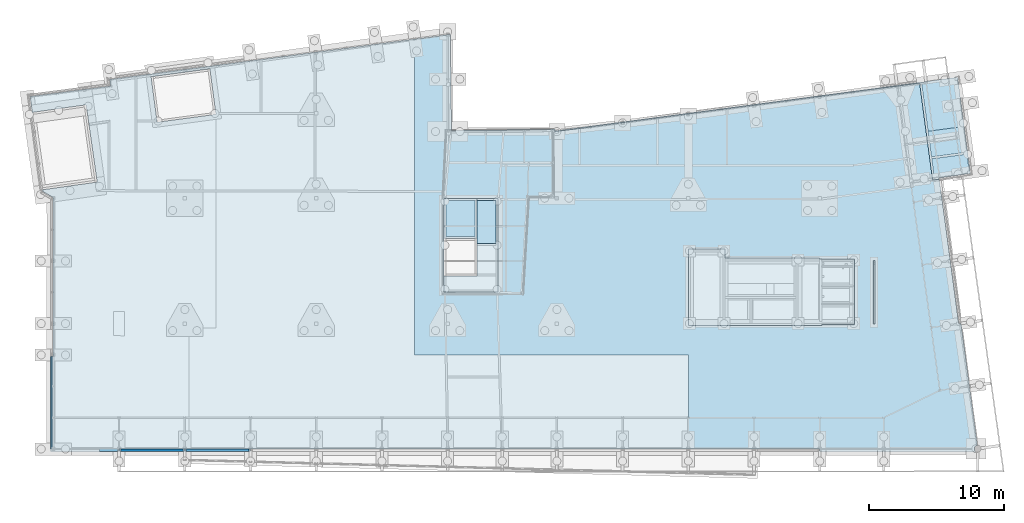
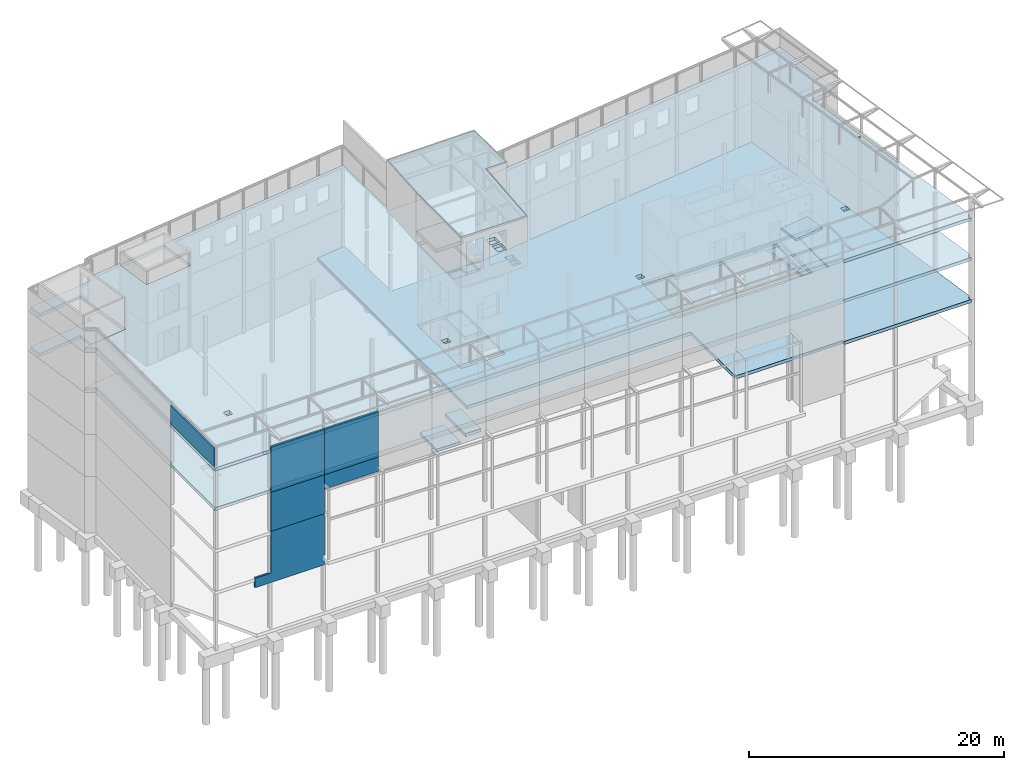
# One storey, part 68 of 82: 13 slabs, 6 walls.
"""IFC2X3 building model written with IfcOpenShell, lengths in millimetres."""

from ifc_helpers import new_model, si_unit, frame, frame_2d, origin_with_axes, place, context, subcontext, project, spatial, polyline, rectangle, circle, outline, extrude, boolean, material, layer, layer_set, layer_usage, type_object, element, save


model = new_model("IFC2X3")

# Units and contexts
model_context = context("Model", 3, precision=1e-05, world=origin_with_axes())
body_context = subcontext(model_context, "Body", "Model", "MODEL_VIEW")
ifc_project = project(units=[si_unit("LENGTHUNIT", "METRE", prefix="MILLI"), si_unit("AREAUNIT", "SQUARE_METRE"), si_unit("VOLUMEUNIT", "CUBIC_METRE"), si_unit("MASSUNIT", "GRAM", prefix="KILO"), si_unit("TIMEUNIT", "SECOND"), si_unit("PLANEANGLEUNIT", "RADIAN"), si_unit("SOLIDANGLEUNIT", "STERADIAN"), si_unit("THERMODYNAMICTEMPERATUREUNIT", "DEGREE_CELSIUS"), si_unit("LUMINOUSINTENSITYUNIT", "LUMEN")], contexts=[model_context])

# Site, building, storey
site_placement = place(None, origin_with_axes())
site = spatial("IfcSite", under=ifc_project, at=site_placement, Name="Undefined", CompositionType="ELEMENT")
building_placement = place(site_placement, origin_with_axes())
building = spatial("IfcBuilding", under=site, at=building_placement, Name="Undefined", CompositionType="ELEMENT")
storey_placement = place(building_placement, origin_with_axes())
storey = spatial("IfcBuildingStorey", under=building, at=storey_placement, Name="Undefined", CompositionType="ELEMENT", Elevation=0.0)

# Slabs
ifc_material_1 = material(Name="CONCRETE/C25/30")
ifc_layer_1 = layer(ifc_material_1, 150.0)
ifc_layer_set_1 = layer_set([ifc_layer_1], Name="Floor: Insitu CONCRETE/C25/30")
ifc_layer_usage_1 = layer_usage(ifc_layer_set_1, "AXIS3", "POSITIVE", -75.0)
slab_type_1 = type_object("IfcSlabType", Name="150*8179", PredefinedType="NOTDEFINED")
slab_1_placement = place(storey_placement, frame((37077.4776355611, 23668.8631790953, 21920.0), z_axis=(0.0, 0.0, 1.0), x_axis=(-0.999934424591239, -0.0114519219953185, 0.0)))
element("IfcSlab", 1, at=slab_1_placement, inside=storey, type_object=slab_type_1, material=ifc_layer_usage_1, Name="DALLE", ObjectType="150*8179", PredefinedType="FLOOR", context=body_context, shape_type="SweptSolid", body=[
    extrude(outline(polyline([(5.17284206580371e-08, 4.49290382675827e-10), (7910.34472641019, 7.93843355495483e-08), (8211.64355453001, 5011.44873057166), (8292.06542952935, 12032.2294923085), (2392.53124995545, 12156.0429688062), (1884.08496090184, 4971.11962893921), (32.0093955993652, 4992.16162110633), (5.17284206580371e-08, 4.49290382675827e-10)])), frame((0.0, 0.0, -75.0), z_axis=(0.0, 0.0, 1.0), x_axis=(1.0, 0.0, 0.0)), (0.0, 0.0, 1.0), 150.0),
])
ifc_material_2 = material(Name="CONCRETE/C30/37")
ifc_layer_2 = layer(ifc_material_2, 300.0)
ifc_layer_set_2 = layer_set([ifc_layer_2], Name="Floor: Insitu CONCRETE/C30/37")
ifc_layer_usage_2 = layer_usage(ifc_layer_set_2, "AXIS3", "POSITIVE", -150.0)
slab_type_2 = type_object("IfcSlabType", Name="300*2445", PredefinedType="NOTDEFINED")
slab_2_placement = place(storey_placement, frame((31418.7636301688, 15615.068582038, 18180.0), z_axis=(0.0, -6.50000002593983e-08, -0.999999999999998), x_axis=(-1.0, 0.0, 0.0)))
element("IfcSlab", 2, at=slab_2_placement, inside=storey, type_object=slab_type_2, material=ifc_layer_usage_2, Name="DALLE", ObjectType="300*2445", PredefinedType="FLOOR", context=body_context, shape_type="SweptSolid", body=[
    extrude(outline(polyline([(5.17284206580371e-08, 4.49290382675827e-10), (2444.99707031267, 1.21690391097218e-09), (2445.00048828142, 2949.99951171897), (0.00046916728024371, 2950.00024414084), (5.17284206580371e-08, 4.49290382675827e-10)])), frame((-3.63806012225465e-12, 9.115763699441e-13, -150.0), z_axis=(0.0, 0.0, 1.0), x_axis=(1.0, 0.0, 0.0)), (0.0, 0.0, 1.0), 300.0),
])
ifc_layer_usage_3 = layer_usage(ifc_layer_set_2, "AXIS3", "POSITIVE", -150.0)
slab_type_3 = type_object("IfcSlabType", Name="300*1430", PredefinedType="NOTDEFINED")
slab_3_placement = place(storey_placement, frame((31418.7636305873, 18415.0686918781, 13179.9999999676), z_axis=(0.0, 0.0, 1.0), x_axis=(-2.77555756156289e-17, -1.0, 0.0)))
element("IfcSlab", 3, at=slab_3_placement, inside=storey, type_object=slab_type_3, material=ifc_layer_usage_3, Name="DALLE", ObjectType="300*1430", PredefinedType="FLOOR", context=body_context, shape_type="SweptSolid", body=[
    extrude(outline(polyline([(5.17284206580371e-08, 4.49290382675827e-10), (3164.09887695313, -2.86308932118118e-09), (3164.09887695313, 1429.97204589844), (0.0, 1429.97204589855), (5.17284206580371e-08, 4.49290382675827e-10)])), frame((-3.63806012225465e-12, 9.115763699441e-13, -150.0), z_axis=(0.0, 0.0, 1.0), x_axis=(1.0, 0.0, 0.0)), (0.0, 0.0, 1.0), 300.0),
])
ifc_layer_usage_4 = layer_usage(ifc_layer_set_2, "AXIS3", "POSITIVE", -150.0)
slab_4_placement = place(storey_placement, frame((31418.7636305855, 18415.068691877, 9154.99999996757), z_axis=(0.0, 0.0, 1.0), x_axis=(-2.77555756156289e-17, -1.0, 0.0)))
element("IfcSlab", 4, at=slab_4_placement, inside=storey, type_object=slab_type_3, material=ifc_layer_usage_4, Name="DALLE", ObjectType="300*1430", PredefinedType="FLOOR", context=body_context, shape_type="SweptSolid", body=[
    extrude(outline(polyline([(5.17284206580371e-08, 4.49290382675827e-10), (3164.09887695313, -2.86308932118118e-09), (3164.09887695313, 1429.97204589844), (0.0, 1429.97204589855), (5.17284206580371e-08, 4.49290382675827e-10)])), frame((-3.63806012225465e-12, 9.115763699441e-13, -150.0), z_axis=(0.0, 0.0, 1.0), x_axis=(1.0, 0.0, 0.0)), (0.0, 0.0, 1.0), 300.0),
])
ifc_layer_usage_5 = layer_usage(ifc_layer_set_2, "AXIS3", "POSITIVE", -150.0)
slab_5_placement = place(storey_placement, frame((31418.7636305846, 18415.0686918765, 5149.99999996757), z_axis=(0.0, 0.0, 1.0), x_axis=(-2.77555756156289e-17, -1.0, 0.0)))
element("IfcSlab", 5, at=slab_5_placement, inside=storey, type_object=slab_type_3, material=ifc_layer_usage_5, Name="DALLE", ObjectType="300*1430", PredefinedType="FLOOR", context=body_context, shape_type="SweptSolid", body=[
    extrude(outline(polyline([(5.17284206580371e-08, 4.49290382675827e-10), (3164.09887695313, -2.86308932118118e-09), (3164.09887695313, 1429.97204589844), (0.0, 1429.97204589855), (5.17284206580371e-08, 4.49290382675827e-10)])), frame((-3.63806012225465e-12, 9.115763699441e-13, -150.0), z_axis=(0.0, 0.0, 1.0), x_axis=(1.0, 0.0, 0.0)), (0.0, 0.0, 1.0), 300.0),
])
ifc_layer_usage_6 = layer_usage(ifc_layer_set_2, "AXIS3", "POSITIVE", -150.0)
slab_6_placement = place(storey_placement, frame((31418.7636301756, 15250.9697769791, -150.0), z_axis=(0.0, 0.0, 1.0), x_axis=(1.0, 0.0, 0.0)))
element("IfcSlab", 6, at=slab_6_placement, inside=storey, type_object=slab_type_3, material=ifc_layer_usage_6, Name="DALLE", ObjectType="300*1430", PredefinedType="FLOOR", context=body_context, shape_type="SweptSolid", body=[
    extrude(outline(polyline([(5.17284206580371e-08, 4.49290382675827e-10), (1429.97204589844, 0.0), (1429.97204589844, 3164.09887695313), (0.0, 3164.09887695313), (5.17284206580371e-08, 4.49290382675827e-10)])), frame((-3.63806012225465e-12, 9.115763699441e-13, -150.0), z_axis=(0.0, 0.0, 1.0), x_axis=(1.0, 0.0, 0.0)), (0.0, 0.0, 1.0), 300.0),
])
ifc_layer_usage_7 = layer_usage(ifc_layer_set_2, "AXIS3", "POSITIVE", -150.0)
slab_type_4 = type_object("IfcSlabType", Name="300*30937", PredefinedType="NOTDEFINED")
slab_7_placement = place(storey_placement, frame((4874.99928096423, -14.9992674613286, 17009.9999999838), z_axis=(0.0, 0.0, 1.0), x_axis=(1.0, 0.0, 0.0)))
solid = boolean("DIFFERENCE", boolean("DIFFERENCE", boolean("DIFFERENCE", boolean("DIFFERENCE", boolean("DIFFERENCE", boolean("DIFFERENCE", boolean("DIFFERENCE", boolean("DIFFERENCE", extrude(outline(polyline([(5.17284206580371e-08, 4.49290382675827e-10), (51975.0000000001, 2.93640169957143e-08), (51975.0039062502, -179.998809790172), (63727.2304687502, -179.999542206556), (62456.9374999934, 9340.37207034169), (62278.5156249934, 9316.56835940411), (60993.8945312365, 18944.3574219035), (60842.4335937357, 20005.4355469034), (60825.9335937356, 20119.2441406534), (63150.6523437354, 20456.2656250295), (62205.8593749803, 27590.5859375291), (32335.1093749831, 23621.2128906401), (32252.8496093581, 23610.2832031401), (32252.476562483, 23684.4355468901), (24659.3808593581, 23597.4746093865), (24660.8984374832, 23468.7910156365), (24480.9101562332, 23466.7304687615), (24394.999999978, 30756.6328125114), (-704.555175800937, 27433.1992187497), (-638.429504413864, 26937.6367187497), (-6603.74560548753, 26165.7246093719), (-6445.37304689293, 24978.781249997), (-2441.05517579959, 25548.7363281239), (-1624.68457032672, 19813.7167968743), (-5680.11621095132, 19243.4960937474), (-5663.48388673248, 19118.8203124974), (-4890.0019531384, 18658.8222656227), (-4890.00000000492, 6857.79882812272), (-5070.00048828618, 6857.79541015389), (-5070.00488281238, -180.002334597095), (0.000722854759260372, -180.000732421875), (5.17284206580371e-08, 4.49290382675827e-10)])), frame((-3.63806012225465e-12, 9.115763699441e-13, -150.0), z_axis=(0.0, 0.0, 1.0), x_axis=(1.0, 0.0, 0.0)), (0.0, 0.0, 1.0), 300.0), extrude(circle(Radius=75.0, at=frame_2d((5.17284206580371e-08, 4.49290382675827e-10), x_axis=(1.0, 0.0))), frame((61456.0977750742, 13776.0003424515, 160.000000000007), z_axis=(0.0, -6.50000002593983e-08, -0.999999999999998), x_axis=(-1.0, 0.0, 0.0)), (0.0, 0.0, 1.0), 320.0)), extrude(rectangle(XDim=550.0, YDim=550.0, at=frame_2d((5.17284206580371e-08, 4.49290382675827e-10), x_axis=(1.0, 0.0))), frame((55545.0041602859, 5808.50813840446, 160.000000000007), z_axis=(0.0, -6.50000002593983e-08, -0.999999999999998), x_axis=(-1.0, 0.0, 0.0)), (0.0, 0.0, 1.0), 320.0)), extrude(rectangle(XDim=550.0, YDim=550.0, at=frame_2d((5.17284206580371e-08, 4.49290382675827e-10), x_axis=(1.0, 0.0))), frame((36953.6497901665, 5808.50782246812, 160.000000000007), z_axis=(0.0, -6.50000002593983e-08, -0.999999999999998), x_axis=(-1.0, 0.0, 0.0)), (0.0, 0.0, 1.0), 320.0)), extrude(rectangle(XDim=550.0, YDim=550.0, at=frame_2d((5.17284206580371e-08, 4.49290382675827e-10), x_axis=(1.0, 0.0))), frame((19338.2933448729, 5808.50752311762, 160.000000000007), z_axis=(0.0, -6.50000002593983e-08, -0.999999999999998), x_axis=(-1.0, 0.0, 0.0)), (0.0, 0.0, 1.0), 320.0)), extrude(rectangle(XDim=550.0, YDim=550.0, at=frame_2d((5.17284206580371e-08, 4.49290382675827e-10), x_axis=(1.0, 0.0))), frame((-432.283132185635, 5808.50718714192, 160.000000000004), z_axis=(0.0, -6.50000002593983e-08, -0.999999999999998), x_axis=(-1.0, 0.0, 0.0)), (0.0, 0.0, 1.0), 320.0)), extrude(rectangle(XDim=700.0, YDim=600.0, at=frame_2d((5.17284206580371e-08, 4.49290382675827e-10), x_axis=(1.0, 0.0))), frame((29411.205436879, 13109.0200081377, 160.000000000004), z_axis=(0.0, -6.50000002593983e-08, -0.999999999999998), x_axis=(-1.0, 0.0, 0.0)), (0.0, 0.0, 1.0), 320.0)), extrude(rectangle(XDim=700.0, YDim=600.0, at=frame_2d((5.17284206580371e-08, 4.49290382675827e-10), x_axis=(1.0, 0.0))), frame((29411.205449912, 12342.726959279, 160.000000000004), z_axis=(0.0, -6.50000002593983e-08, -0.999999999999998), x_axis=(-1.0, 0.0, 0.0)), (0.0, 0.0, 1.0), 320.0)), extrude(rectangle(XDim=800.0, YDim=900.0, at=frame_2d((5.17284206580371e-08, 4.49290382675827e-10), x_axis=(1.0, 0.0))), frame((29373.7059808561, 14768.6965717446, 160.000000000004), z_axis=(0.0, -6.50000002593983e-08, -0.999999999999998), x_axis=(-1.0, 0.0, 0.0)), (0.0, 0.0, 1.0), 320.0))
element("IfcSlab", 7, at=slab_7_placement, inside=storey, type_object=slab_type_4, material=ifc_layer_usage_7, Name="DALLE", ObjectType="300*30937", PredefinedType="FLOOR", context=body_context, shape_type="CSG", body=[
    boolean("DIFFERENCE", boolean("DIFFERENCE", boolean("DIFFERENCE", boolean("DIFFERENCE", boolean("DIFFERENCE", boolean("DIFFERENCE", boolean("DIFFERENCE", solid, extrude(rectangle(XDim=800.0, YDim=800.0, at=frame_2d((5.17284206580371e-08, 4.49290382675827e-10), x_axis=(1.0, 0.0))), frame((29373.7059627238, 15834.8119386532, 160.000000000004), z_axis=(0.0, -6.50000002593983e-08, -0.999999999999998), x_axis=(-1.0, 0.0, 0.0)), (0.0, 0.0, 1.0), 320.0)), extrude(rectangle(XDim=600.0, YDim=600.0, at=frame_2d((5.17284206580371e-08, 4.49290382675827e-10), x_axis=(1.0, 0.0))), frame((29410.6617311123, 19657.2196617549, 160.000000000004), z_axis=(0.0, -6.50000002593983e-08, -0.999999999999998), x_axis=(-1.0, 0.0, 0.0)), (0.0, 0.0, 1.0), 320.0)), extrude(rectangle(XDim=800.0, YDim=700.0, at=frame_2d((5.17284206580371e-08, 4.49290382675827e-10), x_axis=(1.0, 0.0))), frame((29392.1824778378, 20610.4405057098, 160.000000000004), z_axis=(0.0, -6.50000002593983e-08, -0.999999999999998), x_axis=(-1.0, 0.0, 0.0)), (0.0, 0.0, 1.0), 320.0)), extrude(rectangle(XDim=800.0, YDim=1900.0, at=frame_2d((5.17284206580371e-08, 4.49290382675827e-10), x_axis=(1.0, 0.0))), frame((29392.1832937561, 22232.3215138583, 160.000000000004), z_axis=(0.0, -6.50000002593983e-08, -0.999999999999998), x_axis=(-1.0, 0.0, 0.0)), (0.0, 0.0, 1.0), 320.0)), extrude(circle(Radius=250.0, at=frame_2d((5.17284206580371e-08, 4.49290382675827e-10), x_axis=(1.0, 0.0))), frame((63687.2445279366, 37.40109331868, 1875.00000001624), z_axis=(0.0, -6.50000002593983e-08, -0.999999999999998), x_axis=(-1.0, 0.0, 0.0)), (0.0, 0.0, 1.0), 10000.0)), extrude(outline(polyline([(5.17284206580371e-08, 4.49290382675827e-10), (5750.0, 1.00153556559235e-08), (5750.0, 2445.0), (-1.36053131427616e-06, 2444.99975585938), (5.17284206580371e-08, 4.49290382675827e-10)])), frame((24098.764064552, 18580.0683689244, -252.500000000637), z_axis=(0.0, 0.0, 1.0), x_axis=(-2.77555756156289e-17, -1.0, 0.0)), (0.0, 0.0, 1.0), 405.0)), extrude(outline(polyline([(5.17284206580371e-08, 4.49290382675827e-10), (4400.00000000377, -1.34241417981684e-09), (4399.99902344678, 3399.99951169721), (-0.00100261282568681, 3399.9995116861), (5.17284206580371e-08, 4.49290382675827e-10)])), frame((2376.19285638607, 27626.7100125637, 152.499999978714), z_axis=(0.0, -6.50000002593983e-08, -0.999999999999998), x_axis=(0.991215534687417, 0.132256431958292, 0.0)), (0.0, 0.0, 1.0), 405.0)),
])
ifc_layer_usage_8 = layer_usage(ifc_layer_set_2, "AXIS3", "POSITIVE", -150.0)
slab_type_5 = type_object("IfcSlabType", Name="300*30960", PredefinedType="NOTDEFINED")
slab_8_placement = place(storey_placement, frame((29449.7337977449, 30765.4316610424, 13179.9999999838), z_axis=(0.0, 0.0, 1.0), x_axis=(-0.991347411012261, -0.131264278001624, 0.0)))
element("IfcSlab", 8, at=slab_8_placement, inside=storey, type_object=slab_type_5, material=ifc_layer_usage_8, Name="DALLE", ObjectType="300*30960", PredefinedType="FLOOR", context=body_context, shape_type="CSG", body=[
    boolean("DIFFERENCE", boolean("DIFFERENCE", boolean("DIFFERENCE", boolean("DIFFERENCE", boolean("DIFFERENCE", extrude(outline(polyline([(5.17284206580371e-08, 4.49290382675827e-10), (25499.9296873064, 8.1199686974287e-09), (25499.4257810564, 499.95474242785), (31514.4511716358, 482.155090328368), (31513.2519528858, 1679.61682127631), (27468.7675779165, 1640.21972655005), (27412.2636716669, 7432.77490228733), (31507.4550778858, 7465.72949213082), (31507.3320310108, 7591.50830072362), (30800.9238278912, 8149.05664056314), (32349.9746091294, 19847.9726560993), (32528.4179685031, 19824.3476560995), (33452.234374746, 26801.2499997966), (28426.0976560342, 27466.7597654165), (28402.4707029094, 27288.3164060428), (-23122.8105466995, 34110.7773434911), (-23099.1835935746, 34289.2187497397), (-34749.7226559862, 35831.867187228), (-34740.1054684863, 26227.1269529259), (-34560.1015622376, 26227.3046873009), (-34550.3828122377, 16514.1953123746), (-34540.3632809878, 16514.2050779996), (-34539.2695309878, 15422.3955076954), (-34040.0039059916, 15426.9912108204), (-34031.7499997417, 8168.20068353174), (-6753.50927729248, 8180.9316405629), (-6753.42529291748, 8000.93212884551), (-6753.58203119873, 7999.63281243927), (852.815856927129, 7080.97656244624), (5.17284206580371e-08, 4.49290382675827e-10)])), frame((-3.63806012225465e-12, 9.115763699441e-13, -150.0), z_axis=(0.0, 0.0, 1.0), x_axis=(1.0, 0.0, 0.0)), (0.0, 0.0, 1.0), 300.0), extrude(circle(Radius=250.0, at=frame_2d((5.17284206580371e-08, 4.49290382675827e-10), x_axis=(1.0, 0.0))), frame((-34738.6237813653, 35611.0994946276, 5825.00000001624), z_axis=(0.0, -6.50000002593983e-08, -0.999999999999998), x_axis=(0.991347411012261, -0.131264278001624, 0.0)), (0.0, 0.0, 1.0), 10000.0)), extrude(outline(polyline([(5.17284206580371e-08, 4.49290382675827e-10), (4700.00000000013, 0.0), (4700.0, 100.0), (0.0, 100.0), (5.17284206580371e-08, 4.49290382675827e-10)])), frame((-28909.0089847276, 20764.8217370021, -252.499999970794), z_axis=(0.0, 0.0, 1.0), x_axis=(0.131264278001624, 0.991347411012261, 0.0)), (0.0, 0.0, 1.0), 405.0)), extrude(outline(polyline([(5.17284206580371e-08, 4.49290382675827e-10), (5700.00048828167, 1.21508492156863e-09), (5699.99902343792, 9900.00000000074), (5624.99902343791, 9900.00000000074), (5624.99902343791, 12325.0019531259), (749.998046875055, 12325.0009765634), (749.998474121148, 9749.99902343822), (674.999633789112, 9749.99902343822), (675.000732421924, 2724.99853515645), (-0.000428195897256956, 2724.99853515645), (5.17284206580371e-08, 4.49290382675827e-10)])), frame((-15408.4190406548, 18094.5708172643, -252.499999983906), z_axis=(0.0, 0.0, 1.0), x_axis=(0.131264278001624, 0.991347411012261, 0.0)), (0.0, 0.0, 1.0), 405.0)), extrude(outline(polyline([(5.17284206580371e-08, 4.49290382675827e-10), (6920.14599609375, -8.64383764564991e-09), (6920.14599609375, 4024.97192382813), (-2.88779119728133e-06, 4024.97192382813), (5.17284206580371e-08, 4.49290382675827e-10)])), frame((2073.32359890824, 12032.3203666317, -252.499999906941), z_axis=(0.0, 0.0, 1.0), x_axis=(0.131264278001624, 0.991347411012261, 0.0)), (0.0, 0.0, 1.0), 405.0)), extrude(outline(polyline([(5.17284206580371e-08, 4.49290382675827e-10), (4400.00000000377, -1.34241417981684e-09), (4399.99902344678, 3399.99951169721), (-0.00100261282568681, 3399.9995116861), (5.17284206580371e-08, 4.49290382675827e-10)])), frame((22420.4372420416, 212.557623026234, 152.499999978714), z_axis=(0.0, -6.50000002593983e-08, -0.999999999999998), x_axis=(-0.999999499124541, -0.00100087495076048, 0.0)), (0.0, 0.0, 1.0), 405.0)),
])
ifc_layer_usage_9 = layer_usage(ifc_layer_set_2, "AXIS3", "POSITIVE", -150.0)
slab_type_6 = type_object("IfcSlabType", Name="300*35828", PredefinedType="NOTDEFINED")
slab_9_placement = place(storey_placement, frame((29449.7337974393, 30765.4316611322, 9155.0), z_axis=(0.0, 0.0, 1.0), x_axis=(-0.99134656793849, -0.131270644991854, 0.0)))
element("IfcSlab", 9, at=slab_9_placement, inside=storey, type_object=slab_type_6, material=ifc_layer_usage_9, Name="DALLE", ObjectType="300*35828", PredefinedType="FLOOR", context=body_context, shape_type="CSG", body=[
    boolean("DIFFERENCE", boolean("DIFFERENCE", boolean("DIFFERENCE", boolean("DIFFERENCE", extrude(outline(polyline([(5.17284206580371e-08, 4.49290382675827e-10), (2687.99414062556, -3.10319592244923e-09), (5765.31591796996, 23239.7187500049), (-14373.888671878, 25906.4824218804), (-13475.9970703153, 32687.2910156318), (-13604.8730468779, 32704.3574218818), (-13585.8378906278, 32848.1054687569), (-23122.5917968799, 34110.9257812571), (-23098.9628906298, 34289.3671875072), (-34749.4921875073, 35832.0937500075), (-34739.9375000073, 26227.3496093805), (-34559.9375000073, 26227.5273437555), (-34550.2773437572, 16514.4160156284), (-34540.2578125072, 16514.4257812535), (-34539.1718750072, 15422.6171875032), (-34039.9062500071, 15427.2099609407), (-34031.6992187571, 8168.4189453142), (-6753.45703125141, 8180.97509765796), (-6753.37402343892, 8000.97558593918), (-6753.53076172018, 7999.67626953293), (852.861328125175, 7080.97119140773), (5.17284206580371e-08, 4.49290382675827e-10)])), frame((-3.63806012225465e-12, 9.115763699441e-13, -150.0), z_axis=(0.0, 0.0, 1.0), x_axis=(1.0, 0.0, 0.0)), (0.0, 0.0, 1.0), 300.0), extrude(circle(Radius=250.0, at=frame_2d((5.17284206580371e-08, 4.49290382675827e-10), x_axis=(1.0, 0.0))), frame((-34738.3950663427, 35611.3226050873, 150.0), z_axis=(0.0, -6.50000002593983e-08, -0.999999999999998), x_axis=(0.99134656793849, -0.131270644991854, 0.0)), (0.0, 0.0, 1.0), 9755.0)), extrude(outline(polyline([(5.17284206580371e-08, 4.49290382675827e-10), (4700.00000000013, 0.0), (4700.0, 100.0), (0.0, 100.0), (5.17284206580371e-08, 4.49290382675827e-10)])), frame((-28908.8756210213, 20765.0074067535, -252.5), z_axis=(0.0, 0.0, 1.0), x_axis=(0.131270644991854, 0.99134656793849, 0.0)), (0.0, 0.0, 1.0), 405.0)), extrude(outline(polyline([(5.17284206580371e-08, 4.49290382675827e-10), (5625.00048828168, -2.42507667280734e-08), (5624.99902343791, 9900.00000000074), (5549.99902341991, 9899.99999998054), (5549.9990234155, 12325.0019531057), (749.998046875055, 12325.0009765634), (749.997985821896, 9899.99902343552), (674.999145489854, 9899.9990234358), (675.000732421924, 2724.99853515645), (-0.000428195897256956, 2724.99853515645), (5.17284206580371e-08, 4.49290382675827e-10)])), frame((-15398.4575287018, 18169.0207712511, -252.5), z_axis=(0.0, 0.0, 1.0), x_axis=(0.131270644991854, 0.99134656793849, 0.0)), (0.0, 0.0, 1.0), 405.0)), extrude(outline(polyline([(5.17284206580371e-08, 4.49290382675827e-10), (6920.14599609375, -8.64383764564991e-09), (6920.14599609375, 4024.97192382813), (-2.88779119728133e-06, 4024.97192382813), (5.17284206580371e-08, 4.49290382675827e-10)])), frame((2073.40087692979, 12032.3070504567, -252.5), z_axis=(0.0, 0.0, 1.0), x_axis=(0.131270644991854, 0.99134656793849, 0.0)), (0.0, 0.0, 1.0), 405.0)),
])
ifc_layer_usage_10 = layer_usage(ifc_layer_set_2, "AXIS3", "POSITIVE", -150.0)
slab_type_7 = type_object("IfcSlabType", Name="300*2640", PredefinedType="NOTDEFINED")
slab_10_placement = place(storey_placement, frame((67751.0876123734, 22019.4405611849, -150.0), z_axis=(0.0, -6.50000002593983e-08, -0.999999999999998), x_axis=(-0.991344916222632, -0.131283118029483, 0.0)))
element("IfcSlab", 10, at=slab_10_placement, inside=storey, type_object=slab_type_7, material=ifc_layer_usage_10, Name="DALLE", ObjectType="300*2640", PredefinedType="FLOOR", context=body_context, shape_type="SweptSolid", body=[
    extrude(outline(polyline([(5.17284206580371e-08, 4.49290382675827e-10), (2633.87377926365, -5.78802428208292e-09), (2640.05737300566, 5529.83447270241), (144.94946288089, 5530.95214848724), (144.884521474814, 5385.95166020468), (0.00095330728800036, 5386.01660161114), (5.17284206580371e-08, 4.49290382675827e-10)])), frame((-3.63806012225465e-12, 9.115763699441e-13, -150.0), z_axis=(0.0, 0.0, 1.0), x_axis=(1.0, 0.0, 0.0)), (0.0, 0.0, 1.0), 300.0),
])
ifc_layer_3 = layer(ifc_material_2, 230.0)
ifc_layer_set_3 = layer_set([ifc_layer_3], Name="Floor: Insitu CONCRETE/C30/37")
ifc_layer_usage_11 = layer_usage(ifc_layer_set_3, "AXIS3", "POSITIVE", -115.0)
slab_type_8 = type_object("IfcSlabType", Name="230*1916", PredefinedType="NOTDEFINED")
slab_11_placement = place(storey_placement, frame((65140.0101789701, 21673.6578674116, 2866.44), z_axis=(0.0, 0.0, 1.0), x_axis=(0.991344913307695, 0.131283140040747, 0.0)))
element("IfcSlab", 11, at=slab_11_placement, inside=storey, type_object=slab_type_8, material=ifc_layer_usage_11, Name="PALIER", ObjectType="230*1916", PredefinedType="FLOOR", context=body_context, shape_type="SweptSolid", body=[
    extrude(outline(polyline([(5.17284206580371e-08, 4.49290382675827e-10), (2618.87402345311, -3.31383489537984e-08), (2618.87402345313, 1915.95043943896), (-2.13949632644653, 1913.02038575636), (5.17284206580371e-08, 4.49290382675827e-10)])), frame((0.0, 0.0, -115.0), z_axis=(0.0, 0.0, 1.0), x_axis=(1.0, 0.0, 0.0)), (0.0, 0.0, 1.0), 230.0),
])
ifc_layer_usage_12 = layer_usage(ifc_layer_set_2, "AXIS3", "POSITIVE", -150.0)
slab_type_9 = type_object("IfcSlabType", Name="300*1578", PredefinedType="NOTDEFINED")
slab_12_placement = place(storey_placement, frame((67809.2746446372, 20475.5754798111, -150.0), z_axis=(0.0, -6.50000002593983e-08, -0.999999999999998), x_axis=(-0.989654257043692, -0.143472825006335, 0.0)))
element("IfcSlab", 12, at=slab_12_placement, inside=storey, type_object=slab_type_9, material=ifc_layer_usage_12, Name="DALLE", ObjectType="300*1578", PredefinedType="FLOOR", context=body_context, shape_type="SweptSolid", body=[
    extrude(outline(polyline([(5.17284206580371e-08, 4.49290382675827e-10), (2139.80371102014, -1.57069734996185e-08), (2139.80371101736, -159.975585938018), (2489.08447274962, -158.884918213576), (2471.43530285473, 1418.6632080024), (-162.071502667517, 1386.25231933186), (-146.812042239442, 146.395889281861), (-1.82364558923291, 148.180267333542), (5.17284206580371e-08, 4.49290382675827e-10)])), frame((-3.63806012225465e-12, 9.115763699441e-13, -150.0), z_axis=(0.0, 0.0, 1.0), x_axis=(1.0, 0.0, 0.0)), (0.0, 0.0, 1.0), 300.0),
])
ifc_layer_usage_13 = layer_usage(ifc_layer_set_2, "AXIS3", "POSITIVE", -150.0)
slab_type_10 = type_object("IfcSlabType", Name="300*2145", PredefinedType="NOTDEFINED")
slab_13_placement = place(storey_placement, frame((31268.7636301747, 15765.0686917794, -1149.99980926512), z_axis=(0.0, 0.0, 1.0), x_axis=(0.0, 1.0, 0.0)))
element("IfcSlab", 13, at=slab_13_placement, inside=storey, type_object=slab_type_10, material=ifc_layer_usage_13, Name="DALLE", ObjectType="300*2145", PredefinedType="FLOOR", context=body_context, shape_type="SweptSolid", body=[
    extrude(outline(polyline([(5.17284206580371e-08, 4.49290382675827e-10), (2649.99975585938, 1.72440195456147e-09), (2650.0, 2145.0), (-1.68991864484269e-05, 2145.0), (5.17284206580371e-08, 4.49290382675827e-10)])), frame((-3.63806012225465e-12, 9.115763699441e-13, -150.0), z_axis=(0.0, 0.0, 1.0), x_axis=(1.0, 0.0, 0.0)), (0.0, 0.0, 1.0), 300.0),
])

# Walls
ifc_layer_4 = layer(ifc_material_1, 115.0)
ifc_layer_set_4 = layer_set([ifc_layer_4], Name="Wall: Insitu CONCRETE/C25/30")
ifc_layer_usage_14 = layer_usage(ifc_layer_set_4, "AXIS2", "POSITIVE", -57.5)
wall_type_1 = type_object("IfcWallType", Name="1771*115", PredefinedType="NOTDEFINED")
wall_1_placement = place(storey_placement, frame((-137.500000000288, 8.29339011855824e-05, 17159.9999999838), z_axis=(0.0, 0.0, 1.0), x_axis=(0.0, 1.0, 0.0)))
element("IfcWallStandardCase", 14, at=wall_1_placement, inside=storey, type_object=wall_type_1, material=ifc_layer_usage_14, Name="PANNEAU_FACADE", ObjectType="1771*115", context=body_context, shape_type="SweptSolid", body=[
    extrude(rectangle(XDim=6842.79615512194, YDim=115.0, at=frame_2d((0.0, 3421.39807756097), x_axis=(0.0, -1.0))), frame((0.0, 0.0, 0.0), z_axis=(0.0, 0.0, 1.0), x_axis=(-2.77555756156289e-17, -1.0, 0.0)), (0.0, 0.0, 1.0), 1771.0),
])
ifc_layer_5 = layer(ifc_material_1, 180.0)
ifc_layer_set_5 = layer_set([ifc_layer_5], Name="Wall: Insitu CONCRETE/C25/30")
ifc_layer_usage_15 = layer_usage(ifc_layer_set_5, "AXIS2", "POSITIVE", -90.0)
wall_type_2 = type_object("IfcWallType", Name="4370*180", PredefinedType="NOTDEFINED")
wall_2_placement = place(storey_placement, frame((9749.99998511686, -104.999999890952, 13030.0), z_axis=(0.0, 0.0, 1.0), x_axis=(-1.0, 0.0, 0.0)))
element("IfcWallStandardCase", 15, at=wall_2_placement, inside=storey, type_object=wall_type_2, material=ifc_layer_usage_15, Name="PANNEAU_FACADE", ObjectType="4370*180", context=body_context, shape_type="CSG", body=[
    boolean("DIFFERENCE", boolean("DIFFERENCE", extrude(rectangle(XDim=4874.99998420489, YDim=180.0, at=frame_2d((0.0, 2437.49999210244), x_axis=(0.0, -1.0))), frame((0.0, 0.0, 0.0), z_axis=(0.0, 0.0, 1.0), x_axis=(-2.77555756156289e-17, -1.0, 0.0)), (0.0, 0.0, 1.0), 4370.0), extrude(rectangle(XDim=265.0, YDim=265.0, at=frame_2d((5.17284206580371e-08, 4.49290382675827e-10), x_axis=(1.0, 0.0))), frame((-1.48822146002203e-05, -104.999999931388, 3830.0), z_axis=(0.0, -6.50000002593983e-08, -0.999999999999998), x_axis=(1.0, 0.0, 0.0)), (0.0, 0.0, 1.0), 3530.0)), extrude(rectangle(XDim=265.0, YDim=265.0, at=frame_2d((5.17284206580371e-08, 4.49290382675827e-10), x_axis=(1.0, 0.0))), frame((4874.99998511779, -104.999999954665, 3830.0), z_axis=(0.0, -6.50000002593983e-08, -0.999999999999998), x_axis=(1.0, 0.0, 0.0)), (0.0, 0.0, 1.0), 3530.0)),
])
ifc_layer_usage_16 = layer_usage(ifc_layer_set_5, "AXIS2", "POSITIVE", -90.0)
wall_3_placement = place(storey_placement, frame((14624.9999851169, -104.999999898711, 13030.0), z_axis=(0.0, 0.0, 1.0), x_axis=(-1.0, 0.0, 0.0)))
element("IfcWallStandardCase", 16, at=wall_3_placement, inside=storey, type_object=wall_type_2, material=ifc_layer_usage_16, Name="PANNEAU_FACADE", ObjectType="4370*180", context=body_context, shape_type="CSG", body=[
    boolean("DIFFERENCE", boolean("DIFFERENCE", extrude(rectangle(XDim=4874.99998420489, YDim=180.0, at=frame_2d((0.0, 2437.49999210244), x_axis=(0.0, -1.0))), frame((0.0, 0.0, 0.0), z_axis=(0.0, 0.0, 1.0), x_axis=(-2.77555756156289e-17, -1.0, 0.0)), (0.0, 0.0, 1.0), 4370.0), extrude(rectangle(XDim=265.0, YDim=265.0, at=frame_2d((5.17284206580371e-08, 4.49290382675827e-10), x_axis=(1.0, 0.0))), frame((-1.48822146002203e-05, -104.999999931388, 3830.0), z_axis=(0.0, -6.50000002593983e-08, -0.999999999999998), x_axis=(1.0, 0.0, 0.0)), (0.0, 0.0, 1.0), 3530.0)), extrude(rectangle(XDim=265.0, YDim=265.0, at=frame_2d((5.17284206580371e-08, 4.49290382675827e-10), x_axis=(1.0, 0.0))), frame((4874.99998511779, -104.999999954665, 3830.0), z_axis=(0.0, -6.50000002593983e-08, -0.999999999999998), x_axis=(1.0, 0.0, 0.0)), (0.0, 0.0, 1.0), 3530.0)),
])
ifc_layer_usage_17 = layer_usage(ifc_layer_set_5, "AXIS2", "POSITIVE", -90.0)
wall_type_3 = type_object("IfcWallType", Name="3725*180", PredefinedType="NOTDEFINED")
wall_4_placement = place(storey_placement, frame((9750.00014383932, -104.999999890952, 9305.00000000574), z_axis=(0.0, 0.0, 1.0), x_axis=(-1.0, 0.0, 0.0)))
element("IfcWallStandardCase", 17, at=wall_4_placement, inside=storey, type_object=wall_type_3, material=ifc_layer_usage_17, Name="PANNEAU_FACADE", ObjectType="3725*180", context=body_context, shape_type="CSG", body=[
    boolean("DIFFERENCE", boolean("DIFFERENCE", extrude(rectangle(XDim=4877.84899298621, YDim=180.0, at=frame_2d((0.0, 2438.92449649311), x_axis=(0.0, -1.0))), frame((0.0, 0.0, 0.0), z_axis=(0.0, 0.0, 1.0), x_axis=(-2.77555756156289e-17, -1.0, 0.0)), (0.0, 0.0, 1.0), 3725.0), extrude(rectangle(XDim=265.0, YDim=265.0, at=frame_2d((5.17284206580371e-08, 4.49290382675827e-10), x_axis=(1.0, 0.0))), frame((4874.99997994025, -104.999999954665, 3725.00021449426), z_axis=(0.0, -6.50000002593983e-08, -0.999999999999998), x_axis=(1.0, 0.0, 0.0)), (0.0, 0.0, 1.0), 3725.0)), extrude(rectangle(XDim=265.0, YDim=265.0, at=frame_2d((5.17284206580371e-08, 4.49290382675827e-10), x_axis=(1.0, 0.0))), frame((-2.00597489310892e-05, -104.999999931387, 3724.99999999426), z_axis=(0.0, -6.50000002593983e-08, -0.999999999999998), x_axis=(1.0, 0.0, 0.0)), (0.0, 0.0, 1.0), 3725.0)),
])
ifc_layer_usage_18 = layer_usage(ifc_layer_set_5, "AXIS2", "POSITIVE", -90.0)
wall_type_4 = type_object("IfcWallType", Name="1380*180", PredefinedType="NOTDEFINED")
wall_5_placement = place(storey_placement, frame((14625.0000622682, -104.999999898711, 11650.0), z_axis=(0.0, 0.0, 1.0), x_axis=(-1.0, 0.0, 0.0)))
element("IfcWallStandardCase", 18, at=wall_5_placement, inside=storey, type_object=wall_type_4, material=ifc_layer_usage_18, Name="PANNEAU_FACADE", ObjectType="1380*180", context=body_context, shape_type="CSG", body=[
    boolean("DIFFERENCE", boolean("DIFFERENCE", extrude(rectangle(XDim=4874.99998420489, YDim=180.0, at=frame_2d((0.0, 2437.49999210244), x_axis=(0.0, -1.0))), frame((0.0, 0.0, 0.0), z_axis=(0.0, 0.0, 1.0), x_axis=(-2.77555756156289e-17, -1.0, 0.0)), (0.0, 0.0, 1.0), 1380.0), extrude(rectangle(XDim=265.0, YDim=265.0, at=frame_2d((5.17284206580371e-08, 4.49290382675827e-10), x_axis=(1.0, 0.0))), frame((4875.00006226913, -104.999999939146, 1380.0), z_axis=(0.0, -6.50000002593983e-08, -0.999999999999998), x_axis=(1.0, 0.0, 0.0)), (0.0, 0.0, 1.0), 3725.0)), extrude(rectangle(XDim=265.0, YDim=265.0, at=frame_2d((5.17284206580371e-08, 4.49290382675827e-10), x_axis=(1.0, 0.0))), frame((6.22691295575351e-05, -104.99999991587, 1380.0), z_axis=(0.0, -6.50000002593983e-08, -0.999999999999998), x_axis=(1.0, 0.0, 0.0)), (0.0, 0.0, 1.0), 7730.0)),
])
ifc_layer_usage_19 = layer_usage(ifc_layer_set_5, "AXIS2", "POSITIVE", -90.0)
wall_type_5 = type_object("IfcWallType", Name="4905*180", PredefinedType="NOTDEFINED")
wall_6_placement = place(storey_placement, frame((9750.0001419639, -104.999999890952, 4400.0), z_axis=(0.0, 0.0, 1.0), x_axis=(-1.0, 0.0, 0.0)))
element("IfcWallStandardCase", 19, at=wall_6_placement, inside=storey, type_object=wall_type_5, material=ifc_layer_usage_19, Name="PANNEAU_FACADE", ObjectType="4905*180", context=body_context, shape_type="CSG", body=[
    boolean("DIFFERENCE", boolean("DIFFERENCE", boolean("DIFFERENCE", extrude(rectangle(XDim=6321.21899297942, YDim=180.0, at=frame_2d((0.0, 3160.60949648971), x_axis=(0.0, -1.0))), frame((0.0, 0.0, 0.0), z_axis=(0.0, 0.0, 1.0), x_axis=(-2.77555756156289e-17, -1.0, 0.0)), (0.0, 0.0, 1.0), 4905.0), extrude(rectangle(XDim=265.0, YDim=265.0, at=frame_2d((5.17284206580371e-08, 4.49290382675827e-10), x_axis=(1.0, 0.0))), frame((-5.27043857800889e-05, -105.000000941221, 4605.0), z_axis=(0.0, -6.50000002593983e-08, -0.999999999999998), x_axis=(1.0, 0.0, 0.0)), (0.0, 0.0, 1.0), 4605.0)), extrude(rectangle(XDim=265.0, YDim=265.0, at=frame_2d((5.17284206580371e-08, 4.49290382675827e-10), x_axis=(1.0, 0.0))), frame((4874.99994760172, -105.000001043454, 4605.000209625), z_axis=(0.0, -6.50000002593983e-08, -0.999999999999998), x_axis=(1.0, 0.0, 0.0)), (0.0, 0.0, 1.0), 4605.0)), extrude(outline(polyline([(5.17284206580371e-08, 4.49290382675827e-10), (1443.36889648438, 4.30545696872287e-08), (1443.36853027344, 4005.0000000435), (-0.000361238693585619, 4005.0000000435), (5.17284206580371e-08, 4.49290382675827e-10)])), frame((6321.21859193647, -92.4992251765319, 900.000236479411), z_axis=(0.0, 1.0, 0.0), x_axis=(-1.0, 0.0, 0.0)), (0.0, 0.0, 1.0), 185.0)),
])

save(model, "model.ifc")
